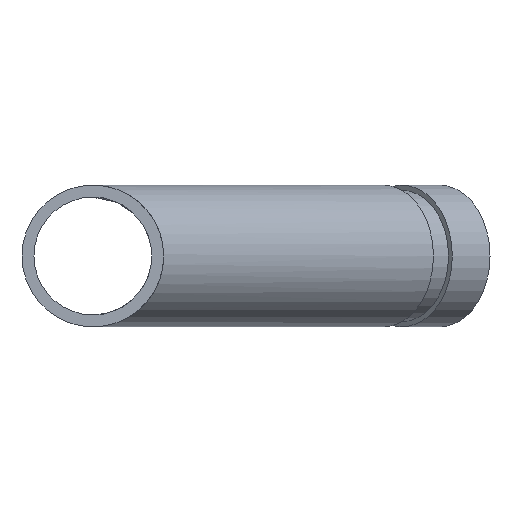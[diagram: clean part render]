
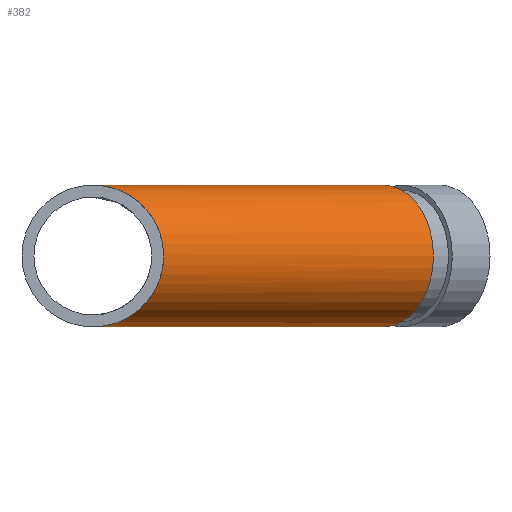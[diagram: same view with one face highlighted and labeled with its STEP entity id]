
A CAD part, front view. The second image highlights one B-rep face of the part: STEP entity #382.
In plain terms, the highlighted cylindrical face has radius 21.082 mm (diameter 42.164 mm), a full revolution.
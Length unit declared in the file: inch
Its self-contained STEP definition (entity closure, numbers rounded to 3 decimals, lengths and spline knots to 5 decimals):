
#45=ELLIPSE('',#439,2.16889,0.83);
#46=ELLIPSE('',#440,2.16889,0.83);
#47=ELLIPSE('',#441,0.89839,0.83);
#61=LINE('',#709,#72);
#72=VECTOR('',#580,0.83);
#82=CYLINDRICAL_SURFACE('',#454,0.83);
#108=FACE_OUTER_BOUND('',#134,.T.);
#134=EDGE_LOOP('',(#319,#320,#321,#322,#323,#324));
#142=CIRCLE('',#408,0.83);
#169=VERTEX_POINT('',#620);
#189=VERTEX_POINT('',#677);
#190=VERTEX_POINT('',#678);
#191=VERTEX_POINT('',#680);
#203=EDGE_CURVE('',#169,#169,#142,.T.);
#229=EDGE_CURVE('',#189,#190,#45,.T.);
#230=EDGE_CURVE('',#190,#191,#46,.T.);
#231=EDGE_CURVE('',#191,#189,#47,.T.);
#245=EDGE_CURVE('',#190,#169,#61,.T.);
#319=ORIENTED_EDGE('',*,*,#231,.F.);
#320=ORIENTED_EDGE('',*,*,#230,.F.);
#321=ORIENTED_EDGE('',*,*,#245,.T.);
#322=ORIENTED_EDGE('',*,*,#203,.T.);
#323=ORIENTED_EDGE('',*,*,#245,.F.);
#324=ORIENTED_EDGE('',*,*,#229,.F.);
#382=ADVANCED_FACE('',(#108),#82,.T.);
#408=AXIS2_PLACEMENT_3D('',#621,#477,#478);
#439=AXIS2_PLACEMENT_3D('',#679,#545,#546);
#440=AXIS2_PLACEMENT_3D('',#681,#547,#548);
#441=AXIS2_PLACEMENT_3D('',#682,#549,#550);
#454=AXIS2_PLACEMENT_3D('',#708,#578,#579);
#477=DIRECTION('center_axis',(-0.707,-0.707,0.));
#478=DIRECTION('ref_axis',(0.707,-0.707,0.));
#545=DIRECTION('center_axis',(-0.924,0.383,0.));
#546=DIRECTION('ref_axis',(-0.383,-0.924,0.));
#547=DIRECTION('center_axis',(-0.924,0.383,0.));
#548=DIRECTION('ref_axis',(-0.383,-0.924,0.));
#549=DIRECTION('center_axis',(-0.383,-0.924,0.));
#550=DIRECTION('ref_axis',(0.924,-0.383,0.));
#578=DIRECTION('center_axis',(-0.707,-0.707,0.));
#579=DIRECTION('ref_axis',(0.707,-0.707,0.));
#580=DIRECTION('',(0.707,0.707,0.));
#620=CARTESIAN_POINT('',(2.8157,3.9895,0.));
#621=CARTESIAN_POINT('Origin',(3.4026,3.4026,0.));
#677=CARTESIAN_POINT('',(0.,0.,0.83));
#678=CARTESIAN_POINT('',(0.83,2.0038,0.));
#679=CARTESIAN_POINT('Origin',(0.,0.,0.));
#680=CARTESIAN_POINT('',(0.,0.,-0.83));
#681=CARTESIAN_POINT('Origin',(0.,0.,0.));
#682=CARTESIAN_POINT('Origin',(0.,0.,
0.));
#708=CARTESIAN_POINT('Origin',(4.06586,4.06586,0.));
#709=CARTESIAN_POINT('',(3.47897,4.65276,0.));
